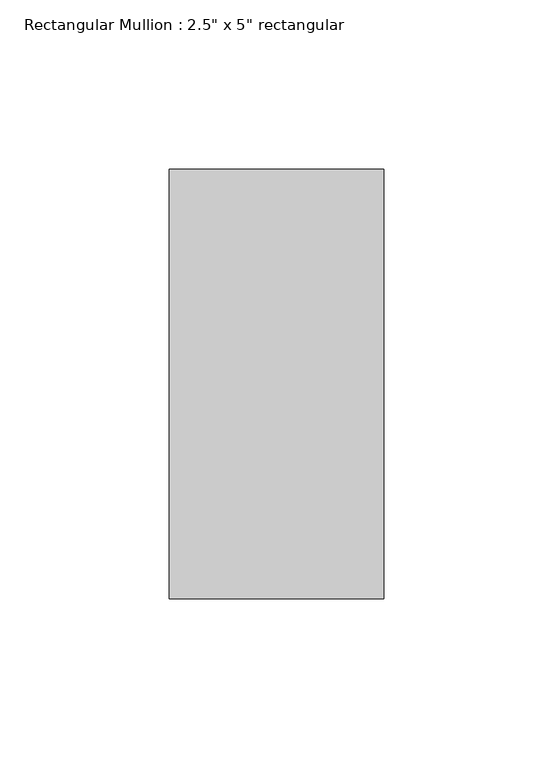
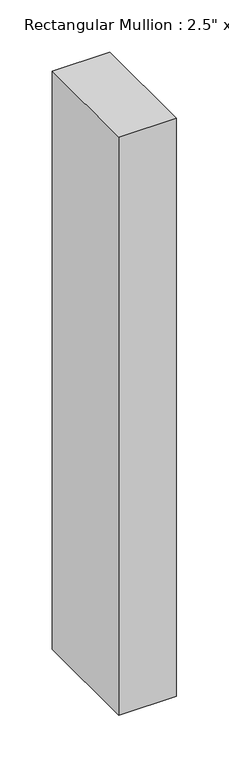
"""IFC4 building model written with IfcOpenShell, lengths in millimetres: member geometry."""

import ifcopenshell
import ifcopenshell.guid

model = None  # the IFC model being written
_history = None  # IfcOwnerHistory: only IFC2X3 demands one
_inside = {}  # id of a spatial element -> (the spatial element, [elements in it])
_under = {}  # id of a project, library or spatial element -> (it, [spatial elements below it])
_declared = {}  # id of a project -> (the project, [libraries it declares])
_typed = {}  # id of a type object -> (the type object, [elements of that type])
_made_of = {}  # id of a material, layer set ... -> (it, [elements and type objects made of it])


def new_model(schema):
    """Start an empty IFC model of exactly this schema.

    Asked for "IFC4X3", IfcOpenShell would pick the latest addendum, in which some entities
    have other attributes; the version numbers below select the first issue.
    IFC2X3 requires an IfcOwnerHistory on every rooted entity: one is made here for all.
    """
    global model, _history
    if schema == "IFC4X3":
        model = ifcopenshell.file(schema_version=(4, 3, 0, 0))
    else:
        model = ifcopenshell.file(schema=schema)
    _inside.clear()
    _under.clear()
    _declared.clear()
    _typed.clear()
    _made_of.clear()
    _history = None
    if model.schema == "IFC2X3":
        org = make("IfcOrganization", Name="unknown")
        user = make(
            "IfcPersonAndOrganization",
            ThePerson=make("IfcPerson", FamilyName="unknown"),
            TheOrganization=org,
        )
        app = make(
            "IfcApplication",
            ApplicationDeveloper=org,
            Version="unknown",
            ApplicationFullName="unknown",
            ApplicationIdentifier="unknown",
        )
        _history = make(
            "IfcOwnerHistory",
            OwningUser=user,
            OwningApplication=app,
            ChangeAction="ADDED",
            CreationDate=0,
        )
    return model


def make(cls, **values):
    """One entity of the class cls with the attributes given. An attribute that is None is left unset."""
    return model.create_entity(
        cls, **{name: value for name, value in values.items() if value is not None}
    )


def rooted(cls, **values):
    """An entity with a GlobalId (a new one), such as an element, a storey or a relation."""
    return make(cls, GlobalId=ifcopenshell.guid.new(), OwnerHistory=_history, **values)


def si_unit(unit_type, name, prefix=None):
    """IfcSIUnit, for example si_unit("LENGTHUNIT", "METRE", prefix="MILLI")."""
    return make("IfcSIUnit", UnitType=unit_type, Prefix=prefix, Name=name)


def assignment(units):
    """IfcUnitAssignment: the units of a project."""
    return None if units is None else make("IfcUnitAssignment", Units=units)


def point(xyz):
    """IfcCartesianPoint."""
    return None if xyz is None else make("IfcCartesianPoint", Coordinates=xyz)


def direction(xyz):
    """IfcDirection."""
    return None if xyz is None else make("IfcDirection", DirectionRatios=xyz)


def frame(location, z_axis=None, x_axis=None):
    """IfcAxis2Placement3D, a coordinate frame: its origin and axes. An axis left out is left unset."""
    return make(
        "IfcAxis2Placement3D",
        Location=point(location),
        Axis=direction(z_axis),
        RefDirection=direction(x_axis),
    )


def origin():
    """The frame at (0, 0, 0) with its axes left unset."""
    return frame((0.0, 0.0, 0.0))


def place(relative_to, where):
    """IfcLocalPlacement: puts the frame where relative to a parent placement (None: the world)."""
    return make(
        "IfcLocalPlacement", PlacementRelTo=relative_to, RelativePlacement=where
    )


def context(
    kind, dimensions, precision=None, world=None, true_north=None, identifier=None
):
    """IfcGeometricRepresentationContext, for example the 3D "Model" context."""
    return make(
        "IfcGeometricRepresentationContext",
        ContextIdentifier=identifier,
        ContextType=kind,
        CoordinateSpaceDimension=dimensions,
        Precision=precision,
        WorldCoordinateSystem=world,
        TrueNorth=true_north,
    )


def project(units=None, contexts=None):
    """IfcProject with its units and contexts."""
    return rooted(
        "IfcProject",
        Name="project",
        RepresentationContexts=contexts,
        UnitsInContext=assignment(units),
    )


def spatial(cls, under=None, at=None, **own):
    """A site, building, storey or space (cls), placed at a placement, below another one or the project."""
    s = rooted(cls, ObjectPlacement=at, **own)
    if under is not None:
        _under.setdefault(under.id(), (under, []))[1].append(s)
    return s


def polyline(points):
    """IfcPolyline through the points."""
    return make("IfcPolyline", Points=[point(p) for p in points])


def outline(outer, holes=None, kind="AREA"):
    """IfcArbitraryClosedProfileDef: a profile drawn as a closed curve; with holes, ...WithVoids."""
    if holes is None:
        return make("IfcArbitraryClosedProfileDef", ProfileType=kind, OuterCurve=outer)
    return make(
        "IfcArbitraryProfileDefWithVoids",
        ProfileType=kind,
        OuterCurve=outer,
        InnerCurves=holes,
    )


def extrude(swept, where, along, depth):
    """IfcExtrudedAreaSolid: the profile swept, set in the frame where, extruded along a direction by depth."""
    return make(
        "IfcExtrudedAreaSolid",
        SweptArea=swept,
        Position=where,
        ExtrudedDirection=direction(along),
        Depth=depth,
    )


def shape(context_of_items, identifier, shape_type, items):
    """IfcShapeRepresentation: the items that make up one representation, for example the "Body"."""
    return make(
        "IfcShapeRepresentation",
        ContextOfItems=context_of_items,
        RepresentationIdentifier=identifier,
        RepresentationType=shape_type,
        Items=items,
    )


def source(mapping_origin, context_of_items, identifier, shape_type, items):
    """IfcRepresentationMap: a shape defined once, which mapped items show again and again."""
    return make(
        "IfcRepresentationMap",
        MappingOrigin=mapping_origin,
        MappedRepresentation=shape(context_of_items, identifier, shape_type, items),
    )


def transform(
    local_origin,
    x_axis=None,
    y_axis=None,
    z_axis=None,
    scale=None,
    scale2=None,
    scale3=None,
    uniform=True,
):
    """IfcCartesianTransformationOperator3D, or its non-uniform kind. x_axis, y_axis, z_axis: its Axis1, 2, 3."""
    if uniform:
        return make(
            "IfcCartesianTransformationOperator3D",
            Axis1=direction(x_axis),
            Axis2=direction(y_axis),
            LocalOrigin=point(local_origin),
            Scale=scale,
            Axis3=direction(z_axis),
        )
    return make(
        "IfcCartesianTransformationOperator3DnonUniform",
        Axis1=direction(x_axis),
        Axis2=direction(y_axis),
        LocalOrigin=point(local_origin),
        Scale=scale,
        Axis3=direction(z_axis),
        Scale2=scale2,
        Scale3=scale3,
    )


def mapped(mapping_source, mapping_target):
    """IfcMappedItem: shows the shape of a source again, moved by a transform."""
    return make(
        "IfcMappedItem", MappingSource=mapping_source, MappingTarget=mapping_target
    )


def made_of(thing, what):
    """Note that an element or type object is made of a material, layer set ...; save() writes the relation."""
    if what is not None:
        _made_of.setdefault(what.id(), (what, []))[1].append(thing)
    return thing


def element(
    cls,
    number,
    at=None,
    inside=None,
    cuts=None,
    type_object=None,
    material=None,
    context=None,
    identifier="Body",
    shape_type=None,
    held_by="IfcProductDefinitionShape",
    body=None,
    shapes=None,
    **own,
):
    """One element of the class cls, such as IfcWall. Its Tag is "e" and its number.

    at: its placement. inside: the storey or other place that contains it. cuts: it is an
    opening in that element (IfcRelVoidsElement). A single representation is given by context,
    identifier, shape_type and body (its items); several are given by shapes. held_by: the class
    of the entity that holds the representations. save() writes the other relations.
    """
    e = rooted(cls, Tag="e%d" % number, ObjectPlacement=at, **own)
    if body is not None:
        shapes = [shape(context, identifier, shape_type, body)]
    if shapes is not None:
        e.Representation = make(held_by, Representations=shapes)
    if inside is not None:
        _inside.setdefault(inside.id(), (inside, []))[1].append(e)
    if cuts is not None:
        rooted(
            "IfcRelVoidsElement", RelatingBuildingElement=cuts, RelatedOpeningElement=e
        )
    if type_object is not None:
        _typed.setdefault(type_object.id(), (type_object, []))[1].append(e)
    return made_of(e, material)


def aggregate(whole, parts):
    """IfcRelAggregates: a whole, such as a stair, and the parts it consists of."""
    return rooted("IfcRelAggregates", RelatingObject=whole, RelatedObjects=parts)


def save(model, path):
    """Write the relations noted so far, then the file.

    IfcRelAggregates (storeys below a building ...), IfcRelContainedInSpatialStructure (elements
    in a storey), IfcRelDefinesByType, IfcRelAssociatesMaterial and IfcRelDeclares: one each for
    every whole, place, type object, material and project.
    """
    for whole, parts in _under.values():
        aggregate(whole, parts)
    for where, things in _inside.values():
        rooted(
            "IfcRelContainedInSpatialStructure",
            RelatedElements=things,
            RelatingStructure=where,
        )
    for kind, things in _typed.values():
        rooted("IfcRelDefinesByType", RelatedObjects=things, RelatingType=kind)
    for what, things in _made_of.values():
        rooted("IfcRelAssociatesMaterial", RelatedObjects=things, RelatingMaterial=what)
    for by, libraries in _declared.values():
        rooted("IfcRelDeclares", RelatingContext=by, RelatedDefinitions=libraries)
    model.write(path)


def member_a996ce90(model_context):
    return source(origin(), model_context, "Body", "SweptSolid", [
        extrude(outline(polyline([(0.0, 63.5), (0.0, -63.5), (-63.5, -63.5), (-63.5, 63.5), (0.0, 63.5)])), frame((0.0, 0.0, -675.1608576), z_axis=(0.0, 0.0, 1.0), x_axis=(1.0, 0.0, 0.0)), (0.0, 0.0, 1.0), 675.1608576),
    ])


if __name__ == "__main__":
    model = new_model("IFC4")
    model_context = context("Model", 3, world=origin())
    ifc_project = project(units=[si_unit("LENGTHUNIT", "METRE", prefix="MILLI")], contexts=[model_context])
    site = spatial("IfcSite", under=ifc_project)
    building = spatial("IfcBuilding", under=site)
    placement = place(None, origin())
    member_shape = member_a996ce90(model_context)
    element("IfcMember", 1, ObjectType="Rectangular Mullion : 2.5\" x 5\" rectangular", at=placement, inside=building, context=model_context, shape_type="MappedRepresentation", body=[
        mapped(member_shape, transform((0.0, 0.0, 0.0), x_axis=(1.0, 0.0, 0.0), y_axis=(0.0, 1.0, 0.0), z_axis=(0.0, 0.0, 1.0))),
    ])
    save(model, "model.ifc")
